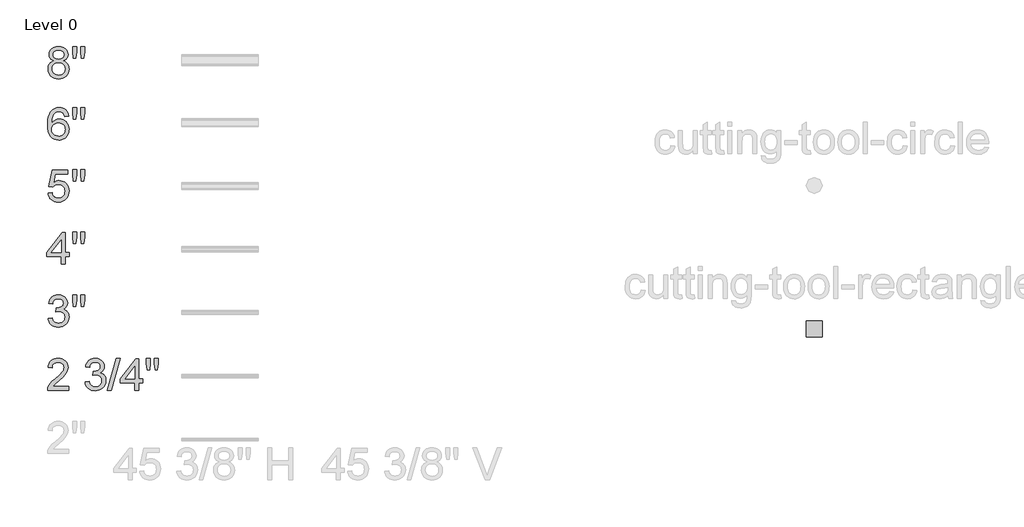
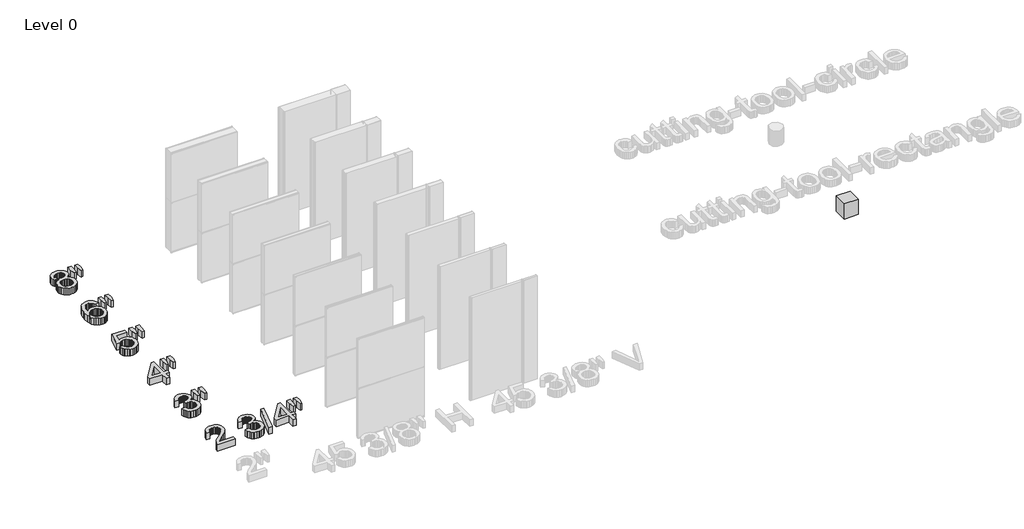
# One storey, part 2 of 4: 7 proxies.
"""IFC4 building model written with IfcOpenShell, lengths in millimetres."""

from ifc_helpers import new_model, si_unit, origin, origin_with_axes, place, context, project, spatial, polyline, outline, extrude, transform, mapped, element, save
from components import kingspan_ks_cutting_tool_rectangle_cutting_tool_rectangle_f435e5aa

model = new_model("IFC4")

# Units and contexts
model_context = context("Model", 3, world=origin())
ifc_project = project(units=[si_unit("LENGTHUNIT", "METRE", prefix="MILLI")], contexts=[model_context])

# Site, building, storey
site = spatial("IfcSite", under=ifc_project)
building = spatial("IfcBuilding", under=site)
storey = spatial("IfcBuildingStorey", under=building, Name="Level 0", Elevation=0.0)

# Proxies
placement = place(None, origin())
element("IfcBuildingElementProxy", 1, Name="24\" Arial", ObjectType="24\" Arial", at=placement, inside=storey, context=model_context, shape_type="SweptSolid", body=[
    extrude(outline(polyline([(-11728.2912313, 9515.3406282), (-11652.1494578, 9524.8583499), (-11635.1030695, 9477.0094913), (-11623.6102347, 9458.9128075), (-11610.1376394, 9444.7012876), (-11594.3785602, 9433.9659667), (-11576.0262736, 9426.2978804), (-11555.0807796, 9421.6970286), (-11531.5420783, 9420.1634113), (-11503.9555568, 9422.2732969), (-11479.3433234, 9428.6029536), (-11457.705378, 9439.1523815), (-11439.0417206, 9453.9215804), (-11424.0122714, 9471.8044872), (-11413.2769505, 9491.6950384), (-11406.835758, 9513.593234), (-11404.6886939, 9537.499074), (-11406.8171687, 9560.2663194), (-11413.2025933, 9580.9794471), (-11423.8449677, 9599.6384572), (-11438.7442918, 9616.2433496), (-11456.9246274, 9629.8739539), (-11477.4100361, 9639.6100999), (-11500.2005182, 9645.4517875), (-11525.2960734, 9647.3990167), (-11549.3506278, 9645.317015), (-11578.6845435, 9639.0710102), (-11570.2078226, 9715.2127837), (-11558.0132417, 9714.3204973), (-11512.3950991, 9719.7857515), (-11471.6101745, 9736.1815143), (-11454.8240364, 9748.5805775), (-11442.8339378, 9763.9167502), (-11435.6398787, 9782.1900322), (-11433.2418589, 9803.4004237), (-11434.9799585, 9820.618763), (-11440.1942572, 9836.2848957), (-11448.884755, 9850.3988219), (-11461.051452, 9862.9605415), (-11475.9600707, 9873.2729558), (-11492.8763339, 9880.638966), (-11511.8002415, 9885.0585721), (-11532.7317935, 9886.5317741), (-11553.6075776, 9885.0446301), (-11572.6616102, 9880.5831981), (-11589.8938915, 9873.147478), (-11605.3044213, 9862.7374699), (-11618.5121191, 9849.3531738), (-11629.1359042, 9832.9945896), (-11637.1757765, 9813.6617174), (-11642.6317361, 9791.3545572), (-11718.7735096, 9800.8722789), (-11709.7484044, 9837.2236554), (-11696.3548136, 9869.243725), (-11678.5927373, 9896.9324876), (-11656.4621754, 9920.2899432), (-11630.6602268, 9938.8327702), (-11601.8839901, 9952.0776465), (-11570.1334654, 9960.0245724), (-11535.4086527, 9962.6735476), (-11487.5412047, 9957.4499543), (-11443.5775098, 9941.7791742), (-11406.5104453, 9917.055405), (-11379.3328884, 9884.6728441), (-11362.6582862, 9847.3641186), (-11357.1000854, 9807.8618558), (-11362.3794467, 9771.0550414), (-11378.2175304, 9737.6686583), (-11404.3912651, 9709.227029), (-11440.677579, 9687.2544762), (-11415.3031843, 9679.3168451), (-11393.0146134, 9667.9959613), (-11373.8118663, 9653.2918248), (-11357.694943, 9635.2044358), (-11344.9426831, 9614.1799373), (-11335.833926, 9590.6644725), (-11330.3686718, 9564.6580416), (-11328.5469203, 9536.1606444), (-11332.1904232, 9497.5320787), (-11343.1209317, 9461.9521581), (-11361.3384459, 9429.4208828), (-11386.8429657, 9399.9382527), (-11417.9149809, 9375.4747337), (-11452.8349813, 9358.0007915), (-11491.6029668, 9347.5164262), (-11534.2189375, 9344.0216378), (-11572.7359674, 9347.0052205), (-11607.8325662, 9355.9559685), (-11639.5087337, 9370.8738819), (-11667.7644699, 9391.7589607), (-11691.456533, 9417.3843109), (-11709.4416809, 9446.523039), (-11721.7199137, 9479.1751447), (-11728.2912313, 9515.3406282)])), origin_with_axes(), (0.0, 0.0, 1.0), 152.4),
    extrude(outline(polyline([(-11243.3335683, 9743.7659488), (-11261.9228685, 9861.3990403), (-11261.9228685, 9962.6735476), (-11185.781095, 9962.6735476), (-11185.781095, 9861.3990403), (-11202.437108, 9743.7659488), (-11243.3335683, 9743.7659488)])), origin_with_axes(), (0.0, 0.0, 1.0), 152.4),
    extrude(outline(polyline([(-11091.4961645, 9743.7659488), (-11109.6393215, 9861.3990403), (-11109.6393215, 9962.6735476), (-11033.497548, 9962.6735476), (-11033.497548, 9861.3990403), (-11051.3432761, 9743.7659488), (-11091.4961645, 9743.7659488)])), origin_with_axes(), (0.0, 0.0, 1.0), 152.4),
])
element("IfcBuildingElementProxy", 2, Name="24\" Arial", ObjectType="24\" Arial", at=placement, inside=storey, context=model_context, shape_type="SweptSolid", body=[
    extrude(outline(polyline([(-11480.8304674, 10548.3393595), (-11480.8304674, 10691.1051848), (-11756.8443964, 10691.1051848), (-11756.8443964, 10767.2469584), (-11461.795024, 11147.9558259), (-11404.6886939, 11147.9558259), (-11404.6886939, 10767.2469584), (-11328.5469203, 10767.2469584), (-11328.5469203, 10691.1051848), (-11404.6886939, 10691.1051848), (-11404.6886939, 10548.3393595), (-11480.8304674, 10548.3393595)]), holes=[polyline([(-11480.8304674, 10767.2469584), (-11480.8304674, 11002.5131414), (-11663.1543235, 10767.2469584), (-11480.8304674, 10767.2469584)])]), origin_with_axes(), (0.0, 0.0, 1.0), 152.4),
    extrude(outline(polyline([(-11243.3335683, 10938.5659488), (-11261.9228685, 11056.1990403), (-11261.9228685, 11157.4735476), (-11185.781095, 11157.4735476), (-11185.781095, 11056.1990403), (-11202.437108, 10938.5659488), (-11243.3335683, 10938.5659488)])), origin_with_axes(), (0.0, 0.0, 1.0), 152.4),
    extrude(outline(polyline([(-11091.4961645, 10938.5659488), (-11109.6393215, 11056.1990403), (-11109.6393215, 11157.4735476), (-11033.497548, 11157.4735476), (-11033.497548, 11056.1990403), (-11051.3432761, 10938.5659488), (-11091.4961645, 10938.5659488)])), origin_with_axes(), (0.0, 0.0, 1.0), 152.4),
])
element("IfcBuildingElementProxy", 3, Name="24\" Arial", ObjectType="24\" Arial", at=placement, inside=storey, context=model_context, shape_type="SweptSolid", body=[
    extrude(outline(polyline([(-11728.2912313, 11901.5390547), (-11652.1494578, 11911.0567763), (-11646.4611319, 11886.5793153), (-11638.1703041, 11865.3456872), (-11627.2769742, 11847.355892), (-11613.7811422, 11832.6099296), (-11597.7106922, 11821.1263894), (-11579.0935081, 11812.9238607), (-11557.9295899, 11808.0023435), (-11534.2189375, 11806.3618378), (-11505.2196292, 11808.6436744), (-11479.6407522, 11815.4891841), (-11457.4823064, 11826.8983671), (-11438.7442918, 11842.8712233), (-11423.8449677, 11862.6177074), (-11413.2025933, 11885.3477742), (-11406.8171687, 11911.0614237), (-11404.6886939, 11939.7586558), (-11406.6823963, 11966.8804448), (-11412.6635036, 11990.9907671), (-11422.6320159, 12012.0896228), (-11436.587933, 12030.1770119), (-11454.5777282, 12044.6859607), (-11476.6478748, 12055.0494955), (-11502.7983729, 12061.2676164), (-11533.0292223, 12063.3403234), (-11569.9661617, 12060.0314279), (-11599.8763457, 12050.1047417), (-11623.7635964, 12034.8986941), (-11642.6317361, 12015.7517149), (-11718.7735096, 12025.2694366), (-11652.1494578, 12339.3542524), (-11357.1000854, 12339.3542524), (-11357.1000854, 12263.2124789), (-11590.5816956, 12263.2124789), (-11623.1501495, 12095.4626341), (-11596.2793161, 12114.7211491), (-11568.7578572, 12128.4772312), (-11540.5857728, 12136.7308805), (-11511.7630629, 12139.4820969), (-11474.6820563, 12136.0709603), (-11440.6218111, 12125.8375506), (-11409.5823271, 12108.7818677), (-11381.5636044, 12084.9039116), (-11358.3688051, 12055.6629424), (-11341.8010914, 12022.5182202), (-11331.8604631, 11985.4697449), (-11328.5469203, 11944.5175167), (-11331.530503, 11905.0710217), (-11340.4812511, 11868.3757431), (-11355.3991644, 11834.431681), (-11376.2842432, 11803.2388353), (-11407.9232321, 11771.293123), (-11444.8415822, 11748.474757), (-11487.0392936, 11734.7837374), (-11534.5163663, 11730.2200642), (-11573.8094995, 11733.1525263), (-11609.3011209, 11741.9499127), (-11640.9912304, 11756.6122232), (-11668.8798279, 11777.1394579), (-11692.0839219, 11802.5092053), (-11709.7205204, 11831.6990539), (-11721.7896236, 11864.7090037), (-11728.2912313, 11901.5390547)])), origin_with_axes(), (0.0, 0.0, 1.0), 152.4),
    extrude(outline(polyline([(-11243.3335683, 12129.9643752), (-11261.9228685, 12247.5974667), (-11261.9228685, 12348.8719741), (-11185.781095, 12348.8719741), (-11185.781095, 12247.5974667), (-11202.437108, 12129.9643752), (-11243.3335683, 12129.9643752)])), origin_with_axes(), (0.0, 0.0, 1.0), 152.4),
    extrude(outline(polyline([(-11091.4961645, 12129.9643752), (-11109.6393215, 12247.5974667), (-11109.6393215, 12348.8719741), (-11033.497548, 12348.8719741), (-11033.497548, 12247.5974667), (-11051.3432761, 12129.9643752), (-11091.4961645, 12129.9643752)])), origin_with_axes(), (0.0, 0.0, 1.0), 152.4),
])
element("IfcBuildingElementProxy", 4, Name="24\" Arial", ObjectType="24\" Arial", at=placement, inside=storey, context=model_context, shape_type="SweptSolid", body=[
    extrude(outline(polyline([(-11338.064642, 8217.7818418), (-11338.064642, 8141.6400683), (-11737.808953, 8141.6400683), (-11736.135916, 8168.4458392), (-11729.6296609, 8194.136252), (-11710.8544677, 8235.1628375), (-11683.3794821, 8274.9625292), (-11643.6355583, 8316.6211509), (-11588.0535508, 8363.2245264), (-11505.888844, 8436.2061189), (-11456.5900199, 8490.0779108), (-11442.2111963, 8512.0876422), (-11431.9406079, 8533.7999448), (-11425.7782549, 8555.2148186), (-11423.7241372, 8576.3322636), (-11425.6620718, 8596.1995782), (-11431.4758754, 8614.4589183), (-11441.1655481, 8631.1102839), (-11454.7310899, 8646.1536751), (-11471.4196342, 8658.6131535), (-11490.4783142, 8667.512781), (-11511.9071299, 8672.8525574), (-11535.7060815, 8674.6324829), (-11560.7784001, 8672.8943834), (-11583.2017434, 8667.6800847), (-11602.9761115, 8658.9895868), (-11620.1015043, 8646.8228899), (-11633.9551802, 8631.5889584), (-11643.9143978, 8613.696757), (-11649.979157, 8593.1462856), (-11652.1494578, 8569.9375443), (-11728.2912313, 8579.455266), (-11721.7431503, 8618.7623413), (-11709.8320562, 8653.1060733), (-11692.557949, 8682.4864623), (-11669.9208288, 8706.903508), (-11642.4411958, 8726.0969605), (-11610.6395505, 8739.8065693), (-11574.5158929, 8748.0323347), (-11534.0702231, 8750.7742565), (-11493.2620619, 8747.7256112), (-11456.9432167, 8738.5796755), (-11425.1136874, 8723.3364494), (-11397.7734742, 8701.9959328), (-11375.8148634, 8676.1382162), (-11360.1301413, 8647.3433903), (-11350.7193081, 8615.6114549), (-11347.5823637, 8580.9424101), (-11350.9656164, 8544.525971), (-11361.1153742, 8508.7415682), (-11379.1284061, 8472.3437184), (-11406.1014807, 8434.0869387), (-11449.098532, 8388.4130281), (-11515.1834941, 8329.7637861), (-11602.7762765, 8256.5219434), (-11637.1293032, 8217.7818418), (-11338.064642, 8217.7818418)])), origin_with_axes(), (0.0, 0.0, 1.0), 152.4),
    extrude(outline(polyline([(-11023.9798263, 8303.441337), (-10947.8380528, 8312.9590587), (-10930.7916645, 8265.1102001), (-10919.2988297, 8247.0135164), (-10905.8262344, 8232.8019964), (-10890.0671551, 8222.0666755), (-10871.7148685, 8214.3985892), (-10850.7693746, 8209.7977374), (-10827.2306732, 8208.2641201), (-10799.6441518, 8210.3740057), (-10775.0319183, 8216.7036624), (-10753.3939729, 8227.2530903), (-10734.7303156, 8242.0222893), (-10719.7008664, 8259.905196), (-10708.9655455, 8279.7957472), (-10702.524353, 8301.6939428), (-10700.3772888, 8325.5997828), (-10702.5057637, 8348.3670282), (-10708.8911883, 8369.080156), (-10719.5335627, 8387.739166), (-10734.4328867, 8404.3440584), (-10752.6132223, 8417.9746627), (-10773.0986311, 8427.7108087), (-10795.8891131, 8433.5524963), (-10820.9846684, 8435.4997255), (-10845.0392228, 8433.4177239), (-10874.3731385, 8427.171719), (-10865.8964176, 8503.3134925), (-10853.7018367, 8502.4212061), (-10808.083694, 8507.8864604), (-10767.2987695, 8524.2822231), (-10750.5126314, 8536.6812863), (-10738.5225328, 8552.017459), (-10731.3284736, 8570.2907411), (-10728.9304539, 8591.5011326), (-10730.6685535, 8608.7194718), (-10735.8828522, 8624.3856046), (-10744.57335, 8638.4995307), (-10756.740047, 8651.0612503), (-10771.6486657, 8661.3736646), (-10788.5649289, 8668.7396748), (-10807.4888364, 8673.1592809), (-10828.4203884, 8674.6324829), (-10849.2961725, 8673.1453389), (-10868.3502052, 8668.6839069), (-10885.5824865, 8661.2481868), (-10900.9930163, 8650.8381787), (-10914.2007141, 8637.4538826), (-10924.8244991, 8621.0952984), (-10932.8643715, 8601.7624262), (-10938.3203311, 8579.455266), (-11014.4621046, 8588.9729877), (-11005.4369994, 8625.3243642), (-10992.0434086, 8657.3444338), (-10974.2813323, 8685.0331964), (-10952.1507704, 8708.3906521), (-10926.3488218, 8726.933479), (-10897.5725851, 8740.1783554), (-10865.8220604, 8748.1252812), (-10831.0972477, 8750.7742565), (-10783.2297997, 8745.5506631), (-10739.2661048, 8729.8798831), (-10702.1990402, 8705.1561138), (-10675.0214834, 8672.7735529), (-10658.3468811, 8635.4648275), (-10652.7886804, 8595.9625646), (-10658.0680416, 8559.1557502), (-10673.9061254, 8525.7693671), (-10700.07986, 8497.3277379), (-10736.366174, 8475.3551851), (-10710.9917792, 8467.4175539), (-10688.7032083, 8456.0966701), (-10669.5004612, 8441.3925336), (-10653.383538, 8423.3051446), (-10640.6312781, 8402.2806461), (-10631.522521, 8378.7651813), (-10626.0572667, 8352.7587504), (-10624.2355153, 8324.2613532), (-10627.8790181, 8285.6327875), (-10638.8095266, 8250.0528669), (-10657.0270408, 8217.5215916), (-10682.5315607, 8188.0389616), (-10713.6035759, 8163.5754425), (-10748.5235763, 8146.1015004), (-10787.2915618, 8135.6171351), (-10829.9075324, 8132.1223466), (-10868.4245624, 8135.1059293), (-10903.5211611, 8144.0566773), (-10935.1973286, 8158.9745907), (-10963.4530649, 8179.8596695), (-10987.145128, 8205.4850198), (-11005.1302759, 8234.6237478), (-11017.4085087, 8267.2758535), (-11023.9798263, 8303.441337)])), origin_with_axes(), (0.0, 0.0, 1.0), 152.4),
    extrude(outline(polyline([(-10595.6823502, 8141.6400683), (-10424.3633598, 8750.7742565), (-10355.6573064, 8750.7742565), (-10526.9762968, 8141.6400683), (-10595.6823502, 8141.6400683)])), origin_with_axes(), (0.0, 0.0, 1.0), 152.4),
    extrude(outline(polyline([(-10072.2076573, 8141.6400683), (-10072.2076573, 8284.4058937), (-10348.2215863, 8284.4058937), (-10348.2215863, 8360.5476672), (-10053.1722139, 8741.2565348), (-9996.0658838, 8741.2565348), (-9996.0658838, 8360.5476672), (-9919.9241103, 8360.5476672), (-9919.9241103, 8284.4058937), (-9996.0658838, 8284.4058937), (-9996.0658838, 8141.6400683), (-10072.2076573, 8141.6400683)]), holes=[polyline([(-10072.2076573, 8360.5476672), (-10072.2076573, 8595.8138502), (-10254.5315134, 8360.5476672), (-10072.2076573, 8360.5476672)])]), origin_with_axes(), (0.0, 0.0, 1.0), 152.4),
    extrude(outline(polyline([(-9834.7107583, 8531.8666576), (-9853.3000584, 8649.4997491), (-9853.3000584, 8750.7742565), (-9777.1582849, 8750.7742565), (-9777.1582849, 8649.4997491), (-9793.8142979, 8531.8666576), (-9834.7107583, 8531.8666576)])), origin_with_axes(), (0.0, 0.0, 1.0), 152.4),
    extrude(outline(polyline([(-9682.8733544, 8531.8666576), (-9701.0165114, 8649.4997491), (-9701.0165114, 8750.7742565), (-9624.8747379, 8750.7742565), (-9624.8747379, 8649.4997491), (-9642.7204661, 8531.8666576), (-9682.8733544, 8531.8666576)])), origin_with_axes(), (0.0, 0.0, 1.0), 152.4),
])
element("IfcBuildingElementProxy", 5, Name="24\" Arial", ObjectType="24\" Arial", at=placement, inside=storey, context=model_context, shape_type="SweptSolid", body=[
    extrude(outline(polyline([(-11338.064642, 13371.984797), (-11414.2064155, 13362.4670753), (-11426.4753537, 13400.2033547), (-11443.0570094, 13425.9681247), (-11459.4248882, 13439.826448), (-11477.5959291, 13449.7252504), (-11497.5701322, 13455.6645318), (-11519.3474973, 13457.6442922), (-11554.7415249, 13453.0341458), (-11588.0535508, 13439.2037065), (-11616.6624838, 13410.0742731), (-11640.0292341, 13369.9771526), (-11649.1612278, 13344.4029229), (-11655.8115499, 13313.2611978), (-11661.6671795, 13234.2752613), (-11631.1249593, 13269.9109498), (-11594.5226272, 13295.0250943), (-11553.9050064, 13309.9151237), (-11511.3169197, 13314.8784669), (-11474.7331769, 13311.4859196), (-11440.9750078, 13301.3082778), (-11410.0424123, 13284.3455414), (-11381.9353904, 13260.5977104), (-11358.5779348, 13231.4775717), (-11341.8940379, 13198.397912), (-11331.8836997, 13161.3587314), (-11328.5469203, 13120.3600299), (-11330.1177162, 13092.6015574), (-11334.8301038, 13065.8376124), (-11342.6840831, 13040.0681951), (-11353.6796542, 13015.2933053), (-11367.4264417, 12992.4377607), (-11383.5340703, 12972.4263791), (-11402.00254, 12955.2591604), (-11422.8318508, 12940.9361046), (-11445.5758596, 12929.647752), (-11469.7884231, 12921.5846431), (-11495.4695413, 12916.7467777), (-11522.6192142, 12915.1341559), (-11568.0096379, 12919.409695), (-11609.0036921, 12932.2363121), (-11645.6013768, 12953.6140073), (-11677.802692, 12983.5427806), (-11704.0554312, 13023.2867043), (-11722.8073878, 13074.109851), (-11734.0585617, 13136.0122206), (-11737.808953, 13208.9938131), (-11733.6449498, 13290.8146178), (-11721.15294, 13360.6453239), (-11700.3329238, 13418.4859314), (-11686.7999133, 13442.9099482), (-11671.1849012, 13464.3364403), (-11639.5923855, 13494.7206514), (-11602.9621695, 13516.4236594), (-11561.2942532, 13529.4454642), (-11514.5886365, 13533.7860658), (-11479.5199217, 13531.0999119), (-11447.7786917, 13523.0414503), (-11419.3649463, 13509.6106809), (-11394.2786858, 13490.8076037), (-11373.1984194, 13467.2642551), (-11356.8026566, 13439.6126711), (-11345.0913975, 13407.8528517), (-11338.064642, 13371.984797)]), holes=[polyline([(-11661.6671795, 13121.5497451), (-11657.2615153, 13087.8101653), (-11644.0445229, 13055.594908), (-11623.5219355, 13027.8968508), (-11597.1994865, 13007.7088708), (-11565.4303725, 12995.3841648), (-11528.5677902, 12991.2759294), (-11502.1012741, 12993.4044043), (-11478.3209119, 12999.7898289), (-11457.2267035, 13010.4322033), (-11438.818649, 13025.3315274), (-11423.8867936, 13043.8836489), (-11413.2211826, 13065.4844157), (-11406.8218161, 13090.1338278), (-11404.6886939, 13117.831885), (-11406.7939321, 13144.4471156), (-11413.1096468, 13168.0787634), (-11423.6358381, 13188.7268286), (-11438.3725058, 13206.3913111), (-11456.8363282, 13220.5424158), (-11478.5439835, 13230.6503478), (-11503.4954716, 13236.715107), (-11531.6907927, 13238.7366934), (-11557.8041121, 13236.715107), (-11581.8633138, 13230.6503478), (-11603.8683979, 13220.5424158), (-11623.8193643, 13206.3913111), (-11640.3777835, 13188.9591948), (-11652.2052257, 13169.0082284), (-11659.301691, 13146.5384118), (-11661.6671795, 13121.5497451)])]), origin_with_axes(), (0.0, 0.0, 1.0), 152.4),
    extrude(outline(polyline([(-11243.3335683, 13314.8784669), (-11261.9228685, 13432.5115584), (-11261.9228685, 13533.7860658), (-11185.781095, 13533.7860658), (-11185.781095, 13432.5115584), (-11202.437108, 13314.8784669), (-11243.3335683, 13314.8784669)])), origin_with_axes(), (0.0, 0.0, 1.0), 152.4),
    extrude(outline(polyline([(-11091.4961645, 13314.8784669), (-11109.6393215, 13432.5115584), (-11109.6393215, 13533.7860658), (-11033.497548, 13533.7860658), (-11033.497548, 13432.5115584), (-11051.3432761, 13314.8784669), (-11091.4961645, 13314.8784669)])), origin_with_axes(), (0.0, 0.0, 1.0), 152.4),
])
element("IfcBuildingElementProxy", 6, Name="24\" Arial", ObjectType="24\" Arial", at=placement, inside=storey, context=model_context, shape_type="SweptSolid", body=[
    extrude(outline(polyline([(-11617.3502879, 14424.5325452), (-11658.1166231, 14444.6089894), (-11673.9407649, 14457.3240707), (-11686.7255561, 14471.8237248), (-11696.5825325, 14487.968532), (-11703.62323, 14505.6190726), (-11709.2557879, 14545.4373535), (-11706.1885534, 14576.4907795), (-11696.9868498, 14604.9602927), (-11681.6506772, 14630.8458932), (-11660.1800355, 14654.147581), (-11633.6066309, 14673.4060959), (-11602.9621695, 14687.1621781), (-11568.2466515, 14695.4158273), (-11529.4600766, 14698.1670438), (-11490.4876088, 14695.3507648), (-11455.5118405, 14686.9019279), (-11424.5327718, 14672.820533), (-11397.5504026, 14653.1065801), (-11375.6893856, 14629.3494545), (-11360.0743734, 14603.1385413), (-11350.7053662, 14574.4738404), (-11347.5823637, 14543.3553519), (-11353.1405645, 14504.8197326), (-11369.8151667, 14471.6006532), (-11382.3675917, 14457.1985929), (-11397.7920635, 14444.5532215), (-11437.2571478, 14424.5325452), (-11412.2313024, 14413.8855235), (-11390.393522, 14400.3850443), (-11371.7438066, 14384.0311074), (-11356.2821562, 14364.823713), (-11344.1479905, 14343.1904149), (-11335.4807293, 14319.5587671), (-11330.2803726, 14293.9287695), (-11328.5469203, 14266.3004221), (-11331.9859409, 14228.3224818), (-11342.3030025, 14193.5047226), (-11359.4981051, 14161.8471444), (-11383.5712489, 14133.3497472), (-11413.2583612, 14109.7971039), (-11447.2953699, 14092.9737873), (-11485.6822747, 14082.8797973), (-11528.4190758, 14079.5151339), (-11571.1558769, 14082.8937392), (-11609.5427818, 14093.0295552), (-11643.5797904, 14109.9225817), (-11673.2669028, 14133.5728189), (-11697.3400465, 14162.270051), (-11714.5351492, 14194.3040625), (-11724.8522108, 14229.6748534), (-11728.2912313, 14268.3824237), (-11726.4880692, 14297.2701962), (-11721.0785828, 14323.704181), (-11712.0627723, 14347.6843783), (-11699.4406374, 14369.2107879), (-11683.4910179, 14387.8930345), (-11664.4927531, 14403.340743), (-11642.4458431, 14415.5539132), (-11617.3502879, 14424.5325452)]), holes=[polyline([(-11633.1140144, 14543.2066375), (-11631.4270354, 14525.7512846), (-11626.3660984, 14509.9689688), (-11617.9312035, 14495.85969), (-11606.1223506, 14483.4234481), (-11591.088254, 14473.2736902), (-11572.9776283, 14466.0238632), (-11551.7904735, 14461.6739669), (-11527.5267894, 14460.2240015), (-11503.8626103, 14461.6646723), (-11483.1355406, 14465.9866846), (-11465.3455803, 14473.1900384), (-11450.4927295, 14483.2747337), (-11438.7814704, 14495.4507254), (-11430.4162853, 14508.927968), (-11425.3971743, 14523.7064616), (-11423.7241372, 14539.7862063), (-11425.4529422, 14556.4933398), (-11430.6393569, 14571.8155705), (-11439.2833815, 14585.7528983), (-11451.3850159, 14598.3053232), (-11466.5724741, 14608.6828), (-11484.4739702, 14616.0952835), (-11505.0895041, 14620.5427736), (-11528.4190758, 14622.0252703), (-11551.9298932, 14620.5753048), (-11572.6430209, 14616.2254086), (-11590.558459, 14608.9755815), (-11605.6762074, 14598.8258236), (-11617.6802479, 14586.649832), (-11626.2545626, 14573.3213038), (-11631.3991515, 14558.840239), (-11633.1140144, 14543.2066375)]), polyline([(-11652.1494578, 14271.0592829), (-11648.9706875, 14241.9298496), (-11639.4343765, 14213.7298812), (-11621.8303092, 14189.1362371), (-11594.44827, 14170.8257764), (-11561.6567445, 14159.4491247), (-11527.8242182, 14155.6569075), (-11500.2934647, 14157.6506099), (-11475.9972493, 14163.6317172), (-11454.9355722, 14173.6002295), (-11437.1084334, 14187.5561466), (-11422.9247973, 14204.5885928), (-11412.7936287, 14223.7866926), (-11406.7149276, 14245.1504458), (-11404.6886939, 14268.6798525), (-11406.7799901, 14292.5856925), (-11413.0538789, 14314.3351738), (-11423.5103603, 14333.9282961), (-11438.1494342, 14351.3650597), (-11456.4598948, 14365.6788208), (-11477.9305365, 14375.9029359), (-11502.5613593, 14382.037405), (-11530.352363, 14384.082228), (-11557.4787993, 14382.0652889), (-11581.4543492, 14376.0144717), (-11602.2790127, 14365.9297764), (-11619.9527899, 14351.8112029), (-11634.0388321, 14334.6625735), (-11644.1002908, 14315.4877104), (-11650.137166, 14294.2866135), (-11652.1494578, 14271.0592829)])]), origin_with_axes(), (0.0, 0.0, 1.0), 152.4),
    extrude(outline(polyline([(-11243.3335683, 14479.2594449), (-11261.9228685, 14596.8925364), (-11261.9228685, 14698.1670438), (-11185.781095, 14698.1670438), (-11185.781095, 14596.8925364), (-11202.437108, 14479.2594449), (-11243.3335683, 14479.2594449)])), origin_with_axes(), (0.0, 0.0, 1.0), 152.4),
    extrude(outline(polyline([(-11091.4961645, 14479.2594449), (-11109.6393215, 14596.8925364), (-11109.6393215, 14698.1670438), (-11033.497548, 14698.1670438), (-11033.497548, 14596.8925364), (-11051.3432761, 14479.2594449), (-11091.4961645, 14479.2594449)])), origin_with_axes(), (0.0, 0.0, 1.0), 152.4),
])
kingspan_ks_cutting_tool_rectangle_cutting_tool_rectangle_shape = kingspan_ks_cutting_tool_rectangle_cutting_tool_rectangle_f435e5aa(model_context)
element("IfcBuildingElementProxy", 7, Name="kingspan-ks-cutting-tool-rectangle : cutting-tool-rectangle", ObjectType="kingspan-ks-cutting-tool-rectangle : cutting-tool-rectangle", at=placement, inside=storey, context=model_context, shape_type="MappedRepresentation", body=[
    mapped(kingspan_ks_cutting_tool_rectangle_cutting_tool_rectangle_shape, transform((2872.4291882, 9314.9996268, 0.0), x_axis=(1.0, 0.0, 0.0), y_axis=(0.0, 1.0, 0.0), z_axis=(0.0, 0.0, 1.0))),
])

save(model, "model.ifc")
